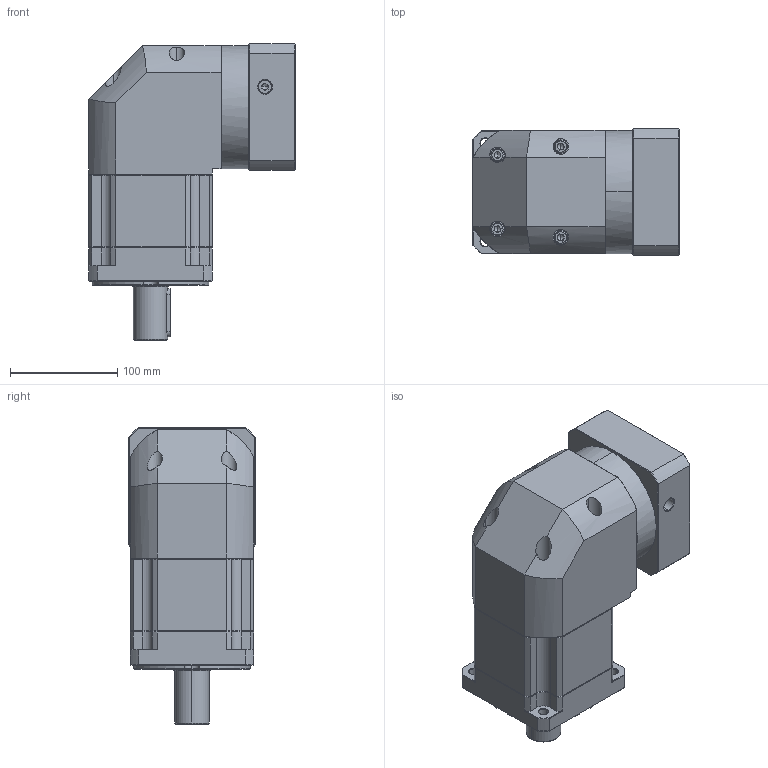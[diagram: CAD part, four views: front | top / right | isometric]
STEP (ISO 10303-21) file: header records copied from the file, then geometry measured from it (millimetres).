
FILE_DESCRIPTION (( 'STEP AP214' ), '1' );
FILE_NAME ('ZBR115A-D32-L2-P2-22-110-130-M8.step', '2023-08-26T12:38:21', ( '' ), ( '' ), 'SwSTEP 2.0', 'SolidWorks 2016', '' );
FILE_SCHEMA (( 'AUTOMOTIVE_DESIGN' ));
Length unit declared in the file: millimetre
Products named in the file (1): ZBR115A-D32-L2-P2-22-110-130-M8
Bounding box: 192.4 x 118 x 276.5 mm (x, y, z)
Volume: 3280391.5 mm3; surface area: 264434.7 mm2
Topology: 6 solids, 6 shells, 2381 faces, 6225 edges, 3948 vertices
Faces by surface type: plane 1139, cylinder 439, bspline 425, cone 370, torus 8
Entity records: 128281 total; most frequent: CARTESIAN_POINT 47207, ORIENTED_EDGE 12390, DIRECTION 9765, EDGE_CURVE 6195, LINE 3991, VECTOR 3991, VERTEX_POINT 3948, AXIS2_PLACEMENT_3D 2887
